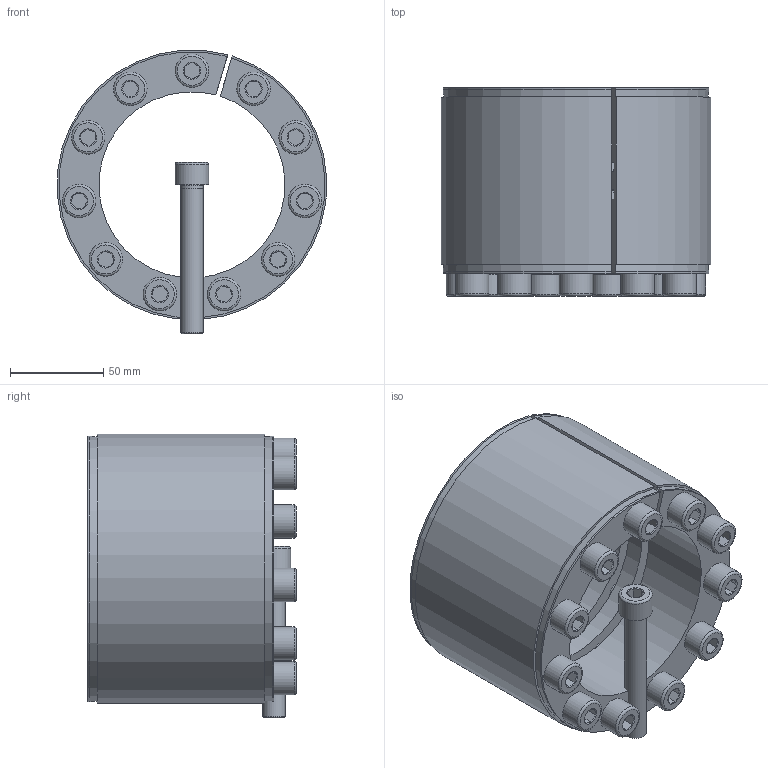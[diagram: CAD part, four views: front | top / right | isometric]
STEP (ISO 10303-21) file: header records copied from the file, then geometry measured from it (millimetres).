
FILE_DESCRIPTION( ( 'Unknown' ), '1' );
FILE_NAME( 'C:/Dokumente und Einstellungen/Sven/Desktop/homepage/cad - homepage/KBS11/KBS 11 - 100 x 145.stp', 'Unknown', ( 'Unknown' ), ( 'Unknown' ), 'XStep 1.0', 'Unknown', ' ' );
FILE_SCHEMA( ( 'automotive_design' ) );
Length unit declared in the file: millimetre
Products named in the file (3): Assem1; KBS 11 - 100 x 145; ISO EN DIN 4762 M12x80
Bounding box: 144.72 x 112 x 152.28 mm (x, y, z)
Volume: 1491257.2 mm3; surface area: 364815.4 mm2
Topology: 14 solids, 14 shells, 406 faces, 866 edges, 536 vertices
Faces by surface type: plane 164, cylinder 126, cone 92, torus 24
Full cylindrical faces by diameter (mm): 11 x12, 12 x90, 18 x12
Entity records: 2646 total; most frequent: CARTESIAN_POINT 441, DIRECTION 424, ORIENTED_EDGE 310, AXIS2_PLACEMENT_3D 192, EDGE_LOOP 188, EDGE_CURVE 155, VERTEX_POINT 125, FACE_OUTER_BOUND 117
